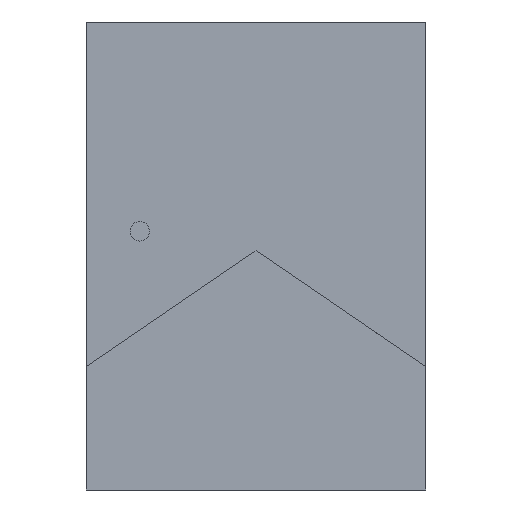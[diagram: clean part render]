
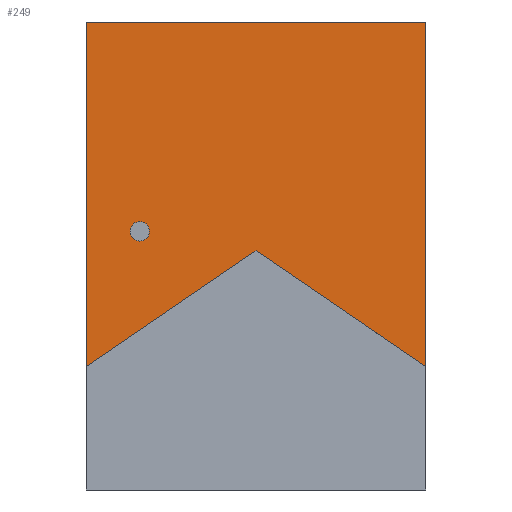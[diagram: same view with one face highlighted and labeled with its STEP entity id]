
A CAD part, front view. The second image highlights one B-rep face of the part: STEP entity #249.
In plain terms, the highlighted planar face has unit normal (0, -1, 0).
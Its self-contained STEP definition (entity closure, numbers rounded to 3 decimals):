
#21 = EDGE_CURVE('',#22,#24,#26,.T.);
#22 = VERTEX_POINT('',#23);
#23 = CARTESIAN_POINT('',(0.,0.,12.719));
#24 = VERTEX_POINT('',#25);
#25 = CARTESIAN_POINT('',(0.,0.,48.18));
#26 = SURFACE_CURVE('',#27,(#31,#43),.PCURVE_S1.);
#27 = LINE('',#28,#29);
#28 = CARTESIAN_POINT('',(0.,0.,0.));
#29 = VECTOR('',#30,1.);
#30 = DIRECTION('',(0.,0.,1.));
#31 = PCURVE('',#32,#37);
#32 = PLANE('',#33);
#33 = AXIS2_PLACEMENT_3D('',#34,#35,#36);
#34 = CARTESIAN_POINT('',(0.,0.,0.));
#35 = DIRECTION('',(1.,0.,-0.));
#36 = DIRECTION('',(0.,0.,1.));
#37 = DEFINITIONAL_REPRESENTATION('',(#38),#42);
#38 = LINE('',#39,#40);
#39 = CARTESIAN_POINT('',(0.,0.));
#40 = VECTOR('',#41,1.);
#41 = DIRECTION('',(1.,0.));
#42 = ( GEOMETRIC_REPRESENTATION_CONTEXT(2) 
PARAMETRIC_REPRESENTATION_CONTEXT() REPRESENTATION_CONTEXT('2D SPACE',''
  ) );
#43 = PCURVE('',#44,#49);
#44 = PLANE('',#45);
#45 = AXIS2_PLACEMENT_3D('',#46,#47,#48);
#46 = CARTESIAN_POINT('',(0.,0.,0.));
#47 = DIRECTION('',(-0.,1.,0.));
#48 = DIRECTION('',(0.,0.,1.));
#49 = DEFINITIONAL_REPRESENTATION('',(#50),#54);
#50 = LINE('',#51,#52);
#51 = CARTESIAN_POINT('',(0.,0.));
#52 = VECTOR('',#53,1.);
#53 = DIRECTION('',(1.,0.));
#54 = ( GEOMETRIC_REPRESENTATION_CONTEXT(2) 
PARAMETRIC_REPRESENTATION_CONTEXT() REPRESENTATION_CONTEXT('2D SPACE',''
  ) );
#72 = PLANE('',#73);
#73 = AXIS2_PLACEMENT_3D('',#74,#75,#76);
#74 = CARTESIAN_POINT('',(17.493,0.,24.639));
#75 = DIRECTION('',(-0.563,-0.,0.826));
#76 = DIRECTION('',(-0.826,0.,-0.563));
#238 = PLANE('',#239);
#239 = AXIS2_PLACEMENT_3D('',#240,#241,#242);
#240 = CARTESIAN_POINT('',(0.,0.,48.18));
#241 = DIRECTION('',(0.,0.,1.));
#242 = DIRECTION('',(1.,0.,-0.));
#249 = ADVANCED_FACE('f001',(#250,#353),#44,.F.);
#250 = FACE_BOUND('',#251,.F.);
#251 = EDGE_LOOP('',(#252,#275,#276,#299,#327));
#252 = ORIENTED_EDGE('',*,*,#253,.T.);
#253 = EDGE_CURVE('',#254,#22,#256,.T.);
#254 = VERTEX_POINT('',#255);
#255 = CARTESIAN_POINT('',(17.493,0.,24.639));
#256 = SURFACE_CURVE('',#257,(#261,#268),.PCURVE_S1.);
#257 = LINE('',#258,#259);
#258 = CARTESIAN_POINT('',(17.493,0.,24.639));
#259 = VECTOR('',#260,1.);
#260 = DIRECTION('',(-0.826,0.,-0.563));
#261 = PCURVE('',#44,#262);
#262 = DEFINITIONAL_REPRESENTATION('',(#263),#267);
#263 = LINE('',#264,#265);
#264 = CARTESIAN_POINT('',(24.639,17.493));
#265 = VECTOR('',#266,1.);
#266 = DIRECTION('',(-0.563,-0.826));
#267 = ( GEOMETRIC_REPRESENTATION_CONTEXT(2) 
PARAMETRIC_REPRESENTATION_CONTEXT() REPRESENTATION_CONTEXT('2D SPACE',''
  ) );
#268 = PCURVE('',#72,#269);
#269 = DEFINITIONAL_REPRESENTATION('',(#270),#274);
#270 = LINE('',#271,#272);
#271 = CARTESIAN_POINT('',(0.,0.));
#272 = VECTOR('',#273,1.);
#273 = DIRECTION('',(1.,0.));
#274 = ( GEOMETRIC_REPRESENTATION_CONTEXT(2) 
PARAMETRIC_REPRESENTATION_CONTEXT() REPRESENTATION_CONTEXT('2D SPACE',''
  ) );
#275 = ORIENTED_EDGE('',*,*,#21,.T.);
#276 = ORIENTED_EDGE('',*,*,#277,.T.);
#277 = EDGE_CURVE('',#24,#278,#280,.T.);
#278 = VERTEX_POINT('',#279);
#279 = CARTESIAN_POINT('',(34.986,0.,48.18));
#280 = SURFACE_CURVE('',#281,(#285,#292),.PCURVE_S1.);
#281 = LINE('',#282,#283);
#282 = CARTESIAN_POINT('',(0.,0.,48.18));
#283 = VECTOR('',#284,1.);
#284 = DIRECTION('',(1.,0.,-0.));
#285 = PCURVE('',#44,#286);
#286 = DEFINITIONAL_REPRESENTATION('',(#287),#291);
#287 = LINE('',#288,#289);
#288 = CARTESIAN_POINT('',(48.18,0.));
#289 = VECTOR('',#290,1.);
#290 = DIRECTION('',(0.,1.));
#291 = ( GEOMETRIC_REPRESENTATION_CONTEXT(2) 
PARAMETRIC_REPRESENTATION_CONTEXT() REPRESENTATION_CONTEXT('2D SPACE',''
  ) );
#292 = PCURVE('',#238,#293);
#293 = DEFINITIONAL_REPRESENTATION('',(#294),#298);
#294 = LINE('',#295,#296);
#295 = CARTESIAN_POINT('',(0.,0.));
#296 = VECTOR('',#297,1.);
#297 = DIRECTION('',(1.,0.));
#298 = ( GEOMETRIC_REPRESENTATION_CONTEXT(2) 
PARAMETRIC_REPRESENTATION_CONTEXT() REPRESENTATION_CONTEXT('2D SPACE',''
  ) );
#299 = ORIENTED_EDGE('',*,*,#300,.F.);
#300 = EDGE_CURVE('',#301,#278,#303,.T.);
#301 = VERTEX_POINT('',#302);
#302 = CARTESIAN_POINT('',(34.986,0.,12.719));
#303 = SURFACE_CURVE('',#304,(#308,#315),.PCURVE_S1.);
#304 = LINE('',#305,#306);
#305 = CARTESIAN_POINT('',(34.986,0.,0.));
#306 = VECTOR('',#307,1.);
#307 = DIRECTION('',(0.,0.,1.));
#308 = PCURVE('',#44,#309);
#309 = DEFINITIONAL_REPRESENTATION('',(#310),#314);
#310 = LINE('',#311,#312);
#311 = CARTESIAN_POINT('',(0.,34.986));
#312 = VECTOR('',#313,1.);
#313 = DIRECTION('',(1.,0.));
#314 = ( GEOMETRIC_REPRESENTATION_CONTEXT(2) 
PARAMETRIC_REPRESENTATION_CONTEXT() REPRESENTATION_CONTEXT('2D SPACE',''
  ) );
#315 = PCURVE('',#316,#321);
#316 = PLANE('',#317);
#317 = AXIS2_PLACEMENT_3D('',#318,#319,#320);
#318 = CARTESIAN_POINT('',(34.986,0.,0.));
#319 = DIRECTION('',(1.,0.,-0.));
#320 = DIRECTION('',(0.,0.,1.));
#321 = DEFINITIONAL_REPRESENTATION('',(#322),#326);
#322 = LINE('',#323,#324);
#323 = CARTESIAN_POINT('',(0.,0.));
#324 = VECTOR('',#325,1.);
#325 = DIRECTION('',(1.,0.));
#326 = ( GEOMETRIC_REPRESENTATION_CONTEXT(2) 
PARAMETRIC_REPRESENTATION_CONTEXT() REPRESENTATION_CONTEXT('2D SPACE',''
  ) );
#327 = ORIENTED_EDGE('',*,*,#328,.T.);
#328 = EDGE_CURVE('',#301,#254,#329,.T.);
#329 = SURFACE_CURVE('',#330,(#334,#341),.PCURVE_S1.);
#330 = LINE('',#331,#332);
#331 = CARTESIAN_POINT('',(34.986,0.,12.719));
#332 = VECTOR('',#333,1.);
#333 = DIRECTION('',(-0.826,0.,0.563));
#334 = PCURVE('',#44,#335);
#335 = DEFINITIONAL_REPRESENTATION('',(#336),#340);
#336 = LINE('',#337,#338);
#337 = CARTESIAN_POINT('',(12.719,34.986));
#338 = VECTOR('',#339,1.);
#339 = DIRECTION('',(0.563,-0.826));
#340 = ( GEOMETRIC_REPRESENTATION_CONTEXT(2) 
PARAMETRIC_REPRESENTATION_CONTEXT() REPRESENTATION_CONTEXT('2D SPACE',''
  ) );
#341 = PCURVE('',#342,#347);
#342 = PLANE('',#343);
#343 = AXIS2_PLACEMENT_3D('',#344,#345,#346);
#344 = CARTESIAN_POINT('',(34.986,0.,12.719));
#345 = DIRECTION('',(0.563,0.,0.826));
#346 = DIRECTION('',(-0.826,0.,0.563));
#347 = DEFINITIONAL_REPRESENTATION('',(#348),#352);
#348 = LINE('',#349,#350);
#349 = CARTESIAN_POINT('',(0.,0.));
#350 = VECTOR('',#351,1.);
#351 = DIRECTION('',(1.,0.));
#352 = ( GEOMETRIC_REPRESENTATION_CONTEXT(2) 
PARAMETRIC_REPRESENTATION_CONTEXT() REPRESENTATION_CONTEXT('2D SPACE',''
  ) );
#353 = FACE_BOUND('',#354,.F.);
#354 = EDGE_LOOP('',(#355));
#355 = ORIENTED_EDGE('',*,*,#356,.T.);
#356 = EDGE_CURVE('',#357,#357,#359,.T.);
#357 = VERTEX_POINT('',#358);
#358 = CARTESIAN_POINT('',(5.534,0.,25.625));
#359 = SURFACE_CURVE('',#360,(#365,#376),.PCURVE_S1.);
#360 = CIRCLE('',#361,1.);
#361 = AXIS2_PLACEMENT_3D('',#362,#363,#364);
#362 = CARTESIAN_POINT('',(5.534,0.,26.625));
#363 = DIRECTION('',(0.,-1.,0.));
#364 = DIRECTION('',(0.,-0.,-1.));
#365 = PCURVE('',#44,#366);
#366 = DEFINITIONAL_REPRESENTATION('',(#367),#375);
#367 = ( BOUNDED_CURVE() B_SPLINE_CURVE(2,(#368,#369,#370,#371,#372,#373
,#374),.UNSPECIFIED.,.T.,.F.) B_SPLINE_CURVE_WITH_KNOTS((1,2,2,2,2,1),(
    -2.094,0.,2.094,4.189,6.283,
8.378),.UNSPECIFIED.) CURVE() GEOMETRIC_REPRESENTATION_ITEM() 
RATIONAL_B_SPLINE_CURVE((1.,0.5,1.,0.5,1.,0.5,1.)) REPRESENTATION_ITEM(
  '') );
#368 = CARTESIAN_POINT('',(25.625,5.534));
#369 = CARTESIAN_POINT('',(25.625,7.266));
#370 = CARTESIAN_POINT('',(27.125,6.4));
#371 = CARTESIAN_POINT('',(28.625,5.534));
#372 = CARTESIAN_POINT('',(27.125,4.668));
#373 = CARTESIAN_POINT('',(25.625,3.802));
#374 = CARTESIAN_POINT('',(25.625,5.534));
#375 = ( GEOMETRIC_REPRESENTATION_CONTEXT(2) 
PARAMETRIC_REPRESENTATION_CONTEXT() REPRESENTATION_CONTEXT('2D SPACE',''
  ) );
#376 = PCURVE('',#377,#382);
#377 = CYLINDRICAL_SURFACE('',#378,1.);
#378 = AXIS2_PLACEMENT_3D('',#379,#380,#381);
#379 = CARTESIAN_POINT('',(5.534,0.,26.625));
#380 = DIRECTION('',(0.,-1.,0.));
#381 = DIRECTION('',(0.,-0.,-1.));
#382 = DEFINITIONAL_REPRESENTATION('',(#383),#387);
#383 = LINE('',#384,#385);
#384 = CARTESIAN_POINT('',(0.,0.));
#385 = VECTOR('',#386,1.);
#386 = DIRECTION('',(1.,0.));
#387 = ( GEOMETRIC_REPRESENTATION_CONTEXT(2) 
PARAMETRIC_REPRESENTATION_CONTEXT() REPRESENTATION_CONTEXT('2D SPACE',''
  ) );
